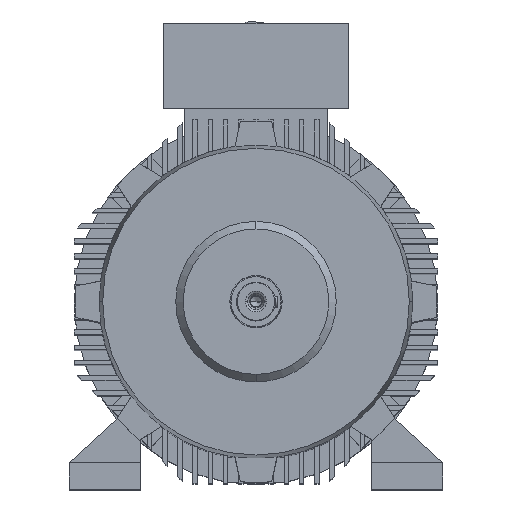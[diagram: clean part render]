
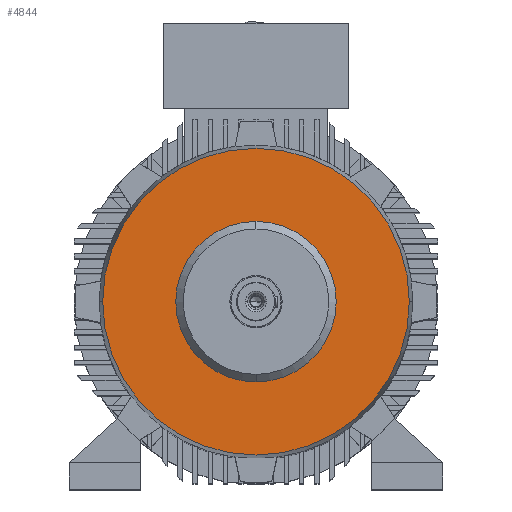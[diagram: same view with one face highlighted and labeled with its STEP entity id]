
A CAD part, top view. The second image highlights one B-rep face of the part: STEP entity #4844.
In plain terms, the highlighted planar face has unit normal (0, 0, 1).
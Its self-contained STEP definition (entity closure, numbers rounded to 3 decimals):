
#758 = AXIS2_PLACEMENT_3D ( 'NONE', #2971, #19105, #935 ) ;
#935 = DIRECTION ( 'NONE',  ( -1., 0., 0. ) ) ;
#1427 = EDGE_CURVE ( 'NONE', #20456, #13034, #17556, .T. ) ;
#1989 = DIRECTION ( 'NONE',  ( 0., 1., 0. ) ) ;
#2909 = CARTESIAN_POINT ( 'NONE',  ( 0., 0., 455.4 ) ) ;
#2971 = CARTESIAN_POINT ( 'NONE',  ( 0., 257.574, 455.4 ) ) ;
#3089 = ORIENTED_EDGE ( 'NONE', *, *, #12683, .F. ) ;
#3848 = VERTEX_POINT ( 'NONE', #19292 ) ;
#4304 = AXIS2_PLACEMENT_3D ( 'NONE', #20934, #5060, #10854 ) ;
#4844 = ADVANCED_FACE ( 'NONE', ( #10326, #17559 ), #25001, .F. ) ;
#5060 = DIRECTION ( 'NONE',  ( 0., 0., 1. ) ) ;
#6062 = CIRCLE ( 'NONE', #4304, 134.8 ) ;
#7974 = CARTESIAN_POINT ( 'NONE',  ( 0., 0., 455.4 ) ) ;
#8602 = AXIS2_PLACEMENT_3D ( 'NONE', #7974, #24021, #1989 ) ;
#9319 = ORIENTED_EDGE ( 'NONE', *, *, #1427, .F. ) ;
#9657 = VERTEX_POINT ( 'NONE', #20451 ) ;
#10201 = CARTESIAN_POINT ( 'NONE',  ( 0., 0., 455.4 ) ) ;
#10263 = CIRCLE ( 'NONE', #13222, 257.574 ) ;
#10326 = FACE_BOUND ( 'NONE', #22937, .T. ) ;
#10854 = DIRECTION ( 'NONE',  ( 0., 1., 0. ) ) ;
#11671 = ORIENTED_EDGE ( 'NONE', *, *, #19142, .F. ) ;
#12218 = DIRECTION ( 'NONE',  ( 0., 0., -1. ) ) ;
#12562 = EDGE_CURVE ( 'NONE', #3848, #9657, #10263, .T. ) ;
#12683 = EDGE_CURVE ( 'NONE', #9657, #3848, #25936, .T. ) ;
#12740 = DIRECTION ( 'NONE',  ( 0., 0., -1. ) ) ;
#13002 = CARTESIAN_POINT ( 'NONE',  ( 0., 134.8, 455.4 ) ) ;
#13034 = VERTEX_POINT ( 'NONE', #24030 ) ;
#13222 = AXIS2_PLACEMENT_3D ( 'NONE', #10201, #12218, #18338 ) ;
#17271 = AXIS2_PLACEMENT_3D ( 'NONE', #2909, #12740, #20726 ) ;
#17556 = CIRCLE ( 'NONE', #8602, 134.8 ) ;
#17559 = FACE_OUTER_BOUND ( 'NONE', #20337, .T. ) ;
#18338 = DIRECTION ( 'NONE',  ( -1., 0., 0. ) ) ;
#19105 = DIRECTION ( 'NONE',  ( 0., 0., -1. ) ) ;
#19142 = EDGE_CURVE ( 'NONE', #13034, #20456, #6062, .T. ) ;
#19292 = CARTESIAN_POINT ( 'NONE',  ( 257.574, 0., 455.4 ) ) ;
#20337 = EDGE_LOOP ( 'NONE', ( #3089, #25056 ) ) ;
#20451 = CARTESIAN_POINT ( 'NONE',  ( -257.574, 0., 455.4 ) ) ;
#20456 = VERTEX_POINT ( 'NONE', #13002 ) ;
#20726 = DIRECTION ( 'NONE',  ( -1., 0., 0. ) ) ;
#20934 = CARTESIAN_POINT ( 'NONE',  ( 0., 0., 455.4 ) ) ;
#22937 = EDGE_LOOP ( 'NONE', ( #9319, #11671 ) ) ;
#24021 = DIRECTION ( 'NONE',  ( 0., 0., 1. ) ) ;
#24030 = CARTESIAN_POINT ( 'NONE',  ( 0., -134.8, 455.4 ) ) ;
#25001 = PLANE ( 'NONE',  #758 ) ;
#25056 = ORIENTED_EDGE ( 'NONE', *, *, #12562, .F. ) ;
#25936 = CIRCLE ( 'NONE', #17271, 257.574 ) ;
